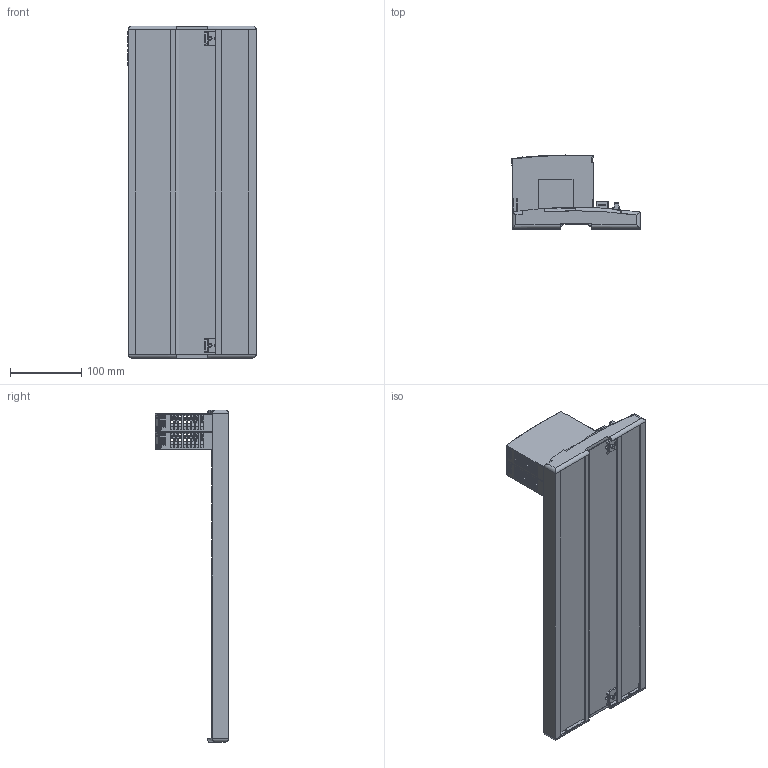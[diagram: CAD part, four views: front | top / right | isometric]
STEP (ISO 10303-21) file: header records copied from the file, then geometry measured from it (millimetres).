
FILE_DESCRIPTION((''),'2;1');
FILE_NAME('2550_16W_BLANK_IGESFILE','2012-04-10T',('chrisloe'),(''),'PRO/ENGINEER BY PARAMETRIC TECHNOLOGY CORPORATION, 2010180','PRO/ENGINEER BY PARAMETRIC TECHNOLOGY CORPORATION, 2010180','');
FILE_SCHEMA(('CONFIG_CONTROL_DESIGN'));
Products named in the file (1): 2550_16W_BLANK_IGESFILE
Bounding box: 180.4 x 103.39 x 467.2 mm (x, y, z)
Volume: 588891.3 mm3; surface area: 495242.3 mm2
Topology: 3 solids, 43 shells, 6519 faces, 18549 edges, 11941 vertices
Faces by surface type: plane 4538, cylinder 1435, cone 242, bspline 162, torus 92, sphere 46, revolution 4
Entity records: 221626 total; most frequent: CARTESIAN_POINT 53287, ORIENTED_EDGE 37070, DIRECTION 32562, EDGE_CURVE 18541, VECTOR 12364, LINE 12364, VERTEX_POINT 11941, AXIS2_PLACEMENT_3D 10097
